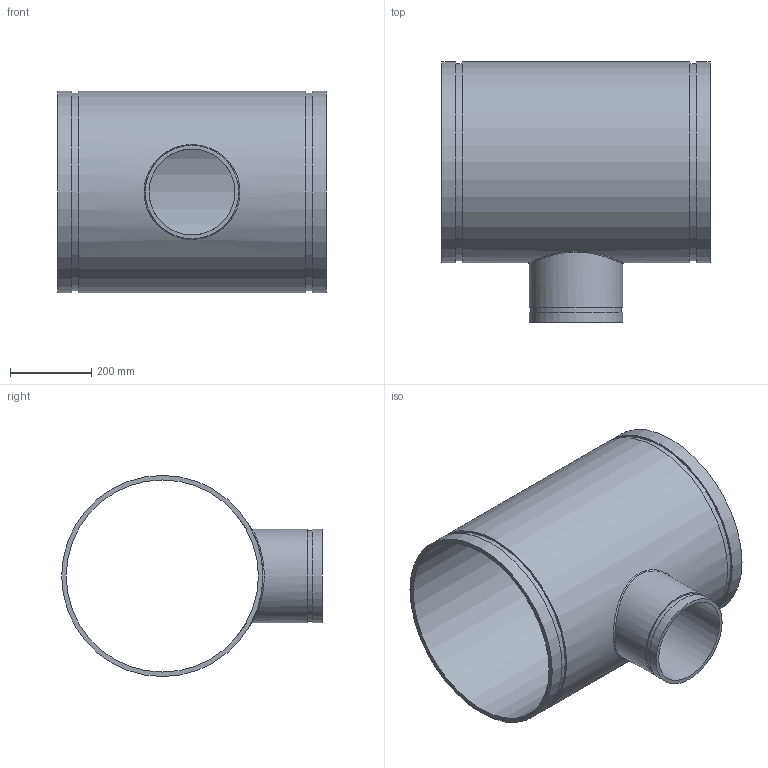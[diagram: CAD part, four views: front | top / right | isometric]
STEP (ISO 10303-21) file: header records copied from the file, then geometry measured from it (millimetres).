
FILE_DESCRIPTION(/* description */ ('VIC REDUCING TEE No 25-C','CAx-IF Rec.Pracs.---Representation and Presentation of Product Manufacturing Information (PMI)---4.0---2014-10-13'),/* implementation_level */ '2;1');
FILE_NAME(/* name */ 'C:\Users\Vjadhav\AppData\Roaming\Autodesk\ApplicationPlugins\Back Up\Victaulic_AWWA_Tee Reducing_No 25-C (DRG)\Victaulic_AWWA_Tee Reducing_No 25-C (DRG)_18.0x08.0 (450x200).stp',/* time_stamp */ '2020-08-18T18:18:24+06:00',/* author */ ('CORINNE GRAY'),/* organization */ ('Victaulic'),/* preprocessor_version */ 'ST-DEVELOPER v17.2',/* originating_system */ 'Autodesk Inventor 2019',/* authorisation */ '');
FILE_SCHEMA (('AP242_MANAGED_MODEL_BASED_3D_ENGINEERING_MIM_LF { 1 0 10303 442 1 1 4 }'));
Length unit declared in the file: inch
Products named in the file (1): 25C-18.0x08.0
Bounding box: 660.4 x 641.35 x 495.3 mm (x, y, z)
Volume: 11567405.5 mm3; surface area: 2230969.7 mm2
Topology: 1 solids, 1 shells, 20 faces, 44 edges, 33 vertices
Faces by surface type: cylinder 10, plane 9, bspline 1
Full cylindrical faces by diameter (mm): 211.582 x1, 223.037 x1, 229.87 x2, 472.948 x1, 485.775 x2, 495.3 x3
Entity records: 1010 total; most frequent: CARTESIAN_POINT 386, DIRECTION 135, ORIENTED_EDGE 90, AXIS2_PLACEMENT_3D 62, EDGE_CURVE 45, VERTEX_POINT 34, EDGE_LOOP 31, CIRCLE 29
